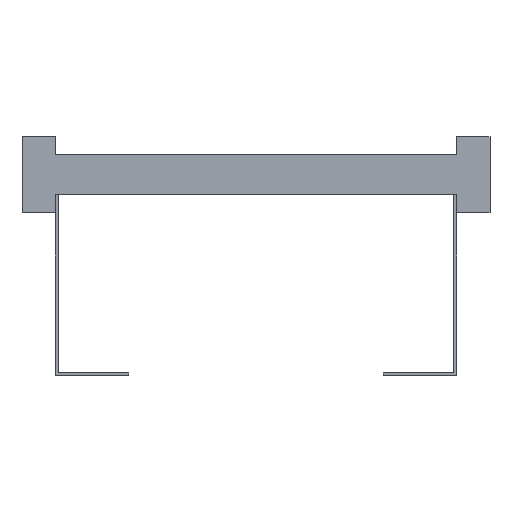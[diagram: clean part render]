
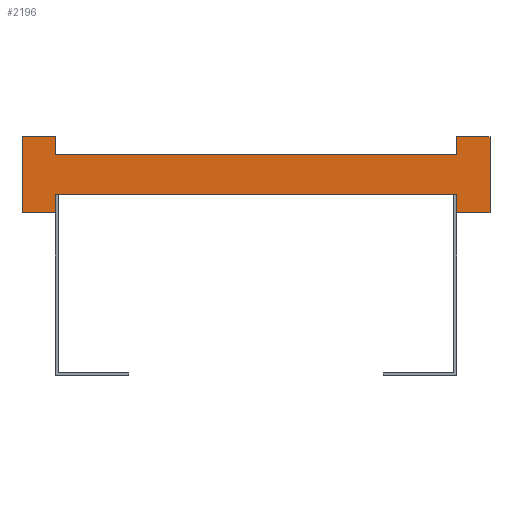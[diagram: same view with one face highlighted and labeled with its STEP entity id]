
A CAD part, front view. The second image highlights one B-rep face of the part: STEP entity #2196.
In plain terms, the highlighted planar face has unit normal (0, -1, 0).
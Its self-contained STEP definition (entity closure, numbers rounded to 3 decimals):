
#1=DIRECTION('',(0.,0.,1.));
#2=VECTOR('',#1,13.5);
#3=CARTESIAN_POINT('',(150.,0.,-28.5));
#4=LINE('',#3,#2);
#5=DIRECTION('',(0.,0.,-1.));
#6=VECTOR('',#5,13.5);
#7=CARTESIAN_POINT('',(-150.,0.,-15.));
#8=LINE('',#7,#6);
#9=DIRECTION('',(-1.,0.,0.));
#10=VECTOR('',#9,25.);
#11=CARTESIAN_POINT('',(-150.,0.,-28.5));
#12=LINE('',#11,#10);
#13=DIRECTION('',(0.,0.,1.));
#14=VECTOR('',#13,57.);
#15=CARTESIAN_POINT('',(-175.,0.,-28.5));
#16=LINE('',#15,#14);
#17=DIRECTION('',(1.,0.,0.));
#18=VECTOR('',#17,25.);
#19=CARTESIAN_POINT('',(-175.,0.,28.5));
#20=LINE('',#19,#18);
#21=DIRECTION('',(0.,0.,-1.));
#22=VECTOR('',#21,13.5);
#23=CARTESIAN_POINT('',(-150.,0.,28.5));
#24=LINE('',#23,#22);
#25=DIRECTION('',(0.,0.,1.));
#26=VECTOR('',#25,13.5);
#27=CARTESIAN_POINT('',(150.,0.,15.));
#28=LINE('',#27,#26);
#29=DIRECTION('',(1.,0.,0.));
#30=VECTOR('',#29,25.);
#31=CARTESIAN_POINT('',(150.,0.,28.5));
#32=LINE('',#31,#30);
#33=DIRECTION('',(0.,0.,-1.));
#34=VECTOR('',#33,57.);
#35=CARTESIAN_POINT('',(175.,0.,28.5));
#36=LINE('',#35,#34);
#37=DIRECTION('',(-1.,0.,0.));
#38=VECTOR('',#37,25.);
#39=CARTESIAN_POINT('',(175.,0.,-28.5));
#40=LINE('',#39,#38);
#1617=DIRECTION('',(1.,0.,0.));
#1618=VECTOR('',#1617,300.);
#1619=CARTESIAN_POINT('',(-150.,0.,-15.));
#1620=LINE('',#1619,#1618);
#1629=DIRECTION('',(1.,0.,0.));
#1630=VECTOR('',#1629,300.);
#1631=CARTESIAN_POINT('',(-150.,0.,15.));
#1632=LINE('',#1631,#1630);
#1633=CARTESIAN_POINT('',(-175.,0.,28.5));
#1634=CARTESIAN_POINT('',(-150.,0.,28.5));
#1635=VERTEX_POINT('',#1633);
#1636=VERTEX_POINT('',#1634);
#1637=CARTESIAN_POINT('',(-150.,0.,-28.5));
#1638=CARTESIAN_POINT('',(-175.,0.,-28.5));
#1639=VERTEX_POINT('',#1637);
#1640=VERTEX_POINT('',#1638);
#1641=CARTESIAN_POINT('',(175.,0.,28.5));
#1642=CARTESIAN_POINT('',(175.,0.,-28.5));
#1643=VERTEX_POINT('',#1641);
#1644=VERTEX_POINT('',#1642);
#1645=CARTESIAN_POINT('',(150.,0.,-28.5));
#1646=VERTEX_POINT('',#1645);
#1647=CARTESIAN_POINT('',(150.,0.,28.5));
#1648=VERTEX_POINT('',#1647);
#1665=CARTESIAN_POINT('',(-150.,0.,-15.));
#1667=VERTEX_POINT('',#1665);
#1669=CARTESIAN_POINT('',(-150.,0.,15.));
#1671=VERTEX_POINT('',#1669);
#1673=CARTESIAN_POINT('',(150.,0.,-15.));
#1675=VERTEX_POINT('',#1673);
#1677=CARTESIAN_POINT('',(150.,0.,15.));
#1679=VERTEX_POINT('',#1677);
#2165=CARTESIAN_POINT('',(0.,0.,0.));
#2166=DIRECTION('',(0.,1.,0.));
#2167=DIRECTION('',(1.,0.,0.));
#2168=AXIS2_PLACEMENT_3D('',#2165,#2166,#2167);
#2169=PLANE('',#2168);
#2171=ORIENTED_EDGE('',*,*,#2170,.T.);
#2173=ORIENTED_EDGE('',*,*,#2172,.F.);
#2175=ORIENTED_EDGE('',*,*,#2174,.T.);
#2177=ORIENTED_EDGE('',*,*,#2176,.T.);
#2179=ORIENTED_EDGE('',*,*,#2178,.T.);
#2181=ORIENTED_EDGE('',*,*,#2180,.T.);
#2183=ORIENTED_EDGE('',*,*,#2182,.T.);
#2185=ORIENTED_EDGE('',*,*,#2184,.T.);
#2187=ORIENTED_EDGE('',*,*,#2186,.T.);
#2189=ORIENTED_EDGE('',*,*,#2188,.T.);
#2191=ORIENTED_EDGE('',*,*,#2190,.T.);
#2193=ORIENTED_EDGE('',*,*,#2192,.T.);
#2194=EDGE_LOOP('',(#2171,#2173,#2175,#2177,#2179,#2181,#2183,#2185,#2187,#2189,
#2191,#2193));
#2195=FACE_OUTER_BOUND('',#2194,.F.);
#2196=ADVANCED_FACE('',(#2195),#2169,.F.);
#2170=EDGE_CURVE('',#1646,#1675,#4,.T.);
#2172=EDGE_CURVE('',#1667,#1675,#1620,.T.);
#2174=EDGE_CURVE('',#1667,#1639,#8,.T.);
#2176=EDGE_CURVE('',#1639,#1640,#12,.T.);
#2178=EDGE_CURVE('',#1640,#1635,#16,.T.);
#2180=EDGE_CURVE('',#1635,#1636,#20,.T.);
#2182=EDGE_CURVE('',#1636,#1671,#24,.T.);
#2184=EDGE_CURVE('',#1671,#1679,#1632,.T.);
#2186=EDGE_CURVE('',#1679,#1648,#28,.T.);
#2188=EDGE_CURVE('',#1648,#1643,#32,.T.);
#2190=EDGE_CURVE('',#1643,#1644,#36,.T.);
#2192=EDGE_CURVE('',#1644,#1646,#40,.T.);
